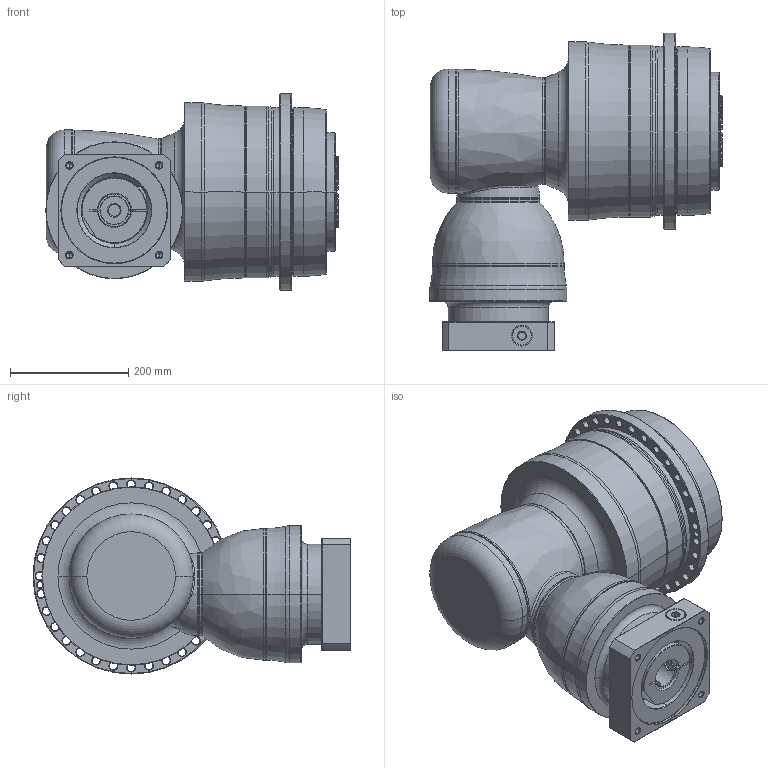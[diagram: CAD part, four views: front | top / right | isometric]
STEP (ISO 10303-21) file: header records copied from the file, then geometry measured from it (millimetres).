
FILE_DESCRIPTION((''),'2;1');
FILE_NAME('APCK285_4ST_48-P0409B10201_ASM','2018-05-17T',('d01226'),(''),'PRO/ENGINEER BY PARAMETRIC TECHNOLOGY CORPORATION, 2008410','PRO/ENGINEER BY PARAMETRIC TECHNOLOGY CORPORATION, 2008410','');
FILE_SCHEMA(('CONFIG_CONTROL_DESIGN'));
Length unit declared in the file: millimetre
Products named in the file (13): P1008600002; P1832810001; P0278801003; P03598G0103; P1211800001; P1315600001; P1007601001; P1317610601; P0409B10201; P0503B00016; P0912556001; 21711426021; APCK285_4ST_48-P0409B10201_ASM
Assembly tree (12 placements, depth 2):
  APCK285_4ST_48-P0409B10201_ASM
    P1008600002
    P1832810001
    P0278801003
    P03598G0103
    P1211800001
    P1315600001
    P1007601001
    P1317610601
    P0409B10201
    P0503B00016
    P0912556001
    21711426021
Bounding box: 495.1 x 538 x 332 mm (x, y, z)
Volume: 31944392.4 mm3; surface area: 1761097.8 mm2
Topology: 13 solids, 25 shells, 853 faces, 2055 edges, 1258 vertices
Faces by surface type: cone 282, cylinder 242, plane 154, torus 140, bspline 33, sphere 2
Entity records: 32505 total; most frequent: CARTESIAN_POINT 12114, DIRECTION 4543, ORIENTED_EDGE 4032, EDGE_CURVE 2041, AXIS2_PLACEMENT_3D 2005, VERTEX_POINT 1258, CIRCLE 1148, EDGE_LOOP 981
